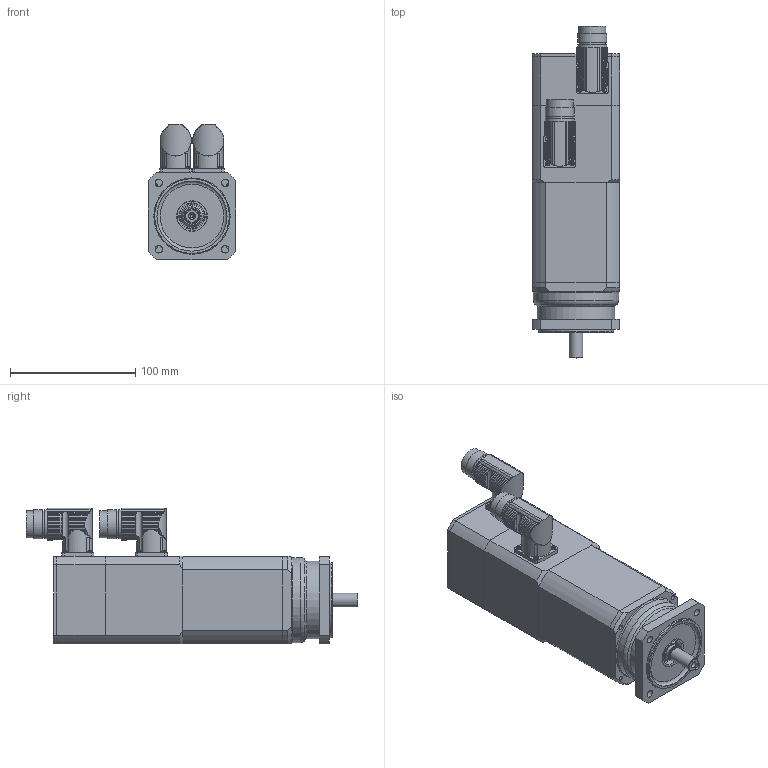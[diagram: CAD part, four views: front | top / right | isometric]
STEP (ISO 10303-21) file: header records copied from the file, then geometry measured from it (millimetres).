
FILE_DESCRIPTION(/* description */ (''),/* implementation_level */ '2;1');
FILE_NAME(/* name */ 'KSY 268 D-Rx',/* time_stamp */ '2006-12-14T15:22:34+01:00',/* author */ (''),/* organization */ (''),/* preprocessor_version */ 'ST-DEVELOPER v8',/* originating_system */ 'UNIGRAPHICS SOLUTIONS - UNIGRAPHICS 18.0',/* authorisation */ '');
FILE_SCHEMA (('AUTOMOTIVE_DESIGN { 1 2 10303 214 0 1 1 1 }'));
Length unit declared in the file: millimetre
Products named in the file (12): Gehaeuse_SY2_80_0; 014258_0; 064213_1; 112056_2; Rotor_SY2_0; iso2009-m3x8_A; 064214_2; din920-m2.5x6_A; 014250_0; DIN3760_org_A12x24x7_0; 112050Z_1; KSY264D-RD_0
Assembly tree (21 placements, depth 2):
  KSY264D-RD_0
    112050Z_1
    DIN3760_org_A12x24x7_0
    014250_0
    din920-m2.5x6_A  x8
    064214_2
    iso2009-m3x8_A  x4
    Rotor_SY2_0
    112056_2
    064213_1
    014258_0
    Gehaeuse_SY2_80_0
Bounding box: 70 x 265.15 x 108.49 mm (x, y, z)
Volume: 413564.5 mm3; surface area: 185039.9 mm2
Topology: 21 solids, 21 shells, 857 faces, 2263 edges, 1477 vertices
Faces by surface type: cylinder 518, plane 210, cone 79, torus 25, sphere 25
Full cylindrical faces by diameter (mm): 1 x21, 2 x4, 2.135 x8, 2.459 x4, 2.5 x9, 2.7 x8, 3 x4, 3.432 x6, 3.5 x16, 4.5 x6, 6 x13, 8 x6, 8.5 x4, 10.6 x1, 11 x2, 12 x2, 12.3 x1, 12.5 x1, 14 x1, 15.02 x1, 18 x4, 20 x4, 21 x3, 21.5 x2, 23 x5, 24 x2, 28 x1, 32 x1, 56 x1, 60 x2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
Entity records: 22710 total; most frequent: CARTESIAN_POINT 5147, DIRECTION 3572, ORIENTED_EDGE 3208, EDGE_CURVE 1604, AXIS2_PLACEMENT_3D 1531, VERTEX_POINT 1184, EDGE_LOOP 1084, CIRCLE 779
